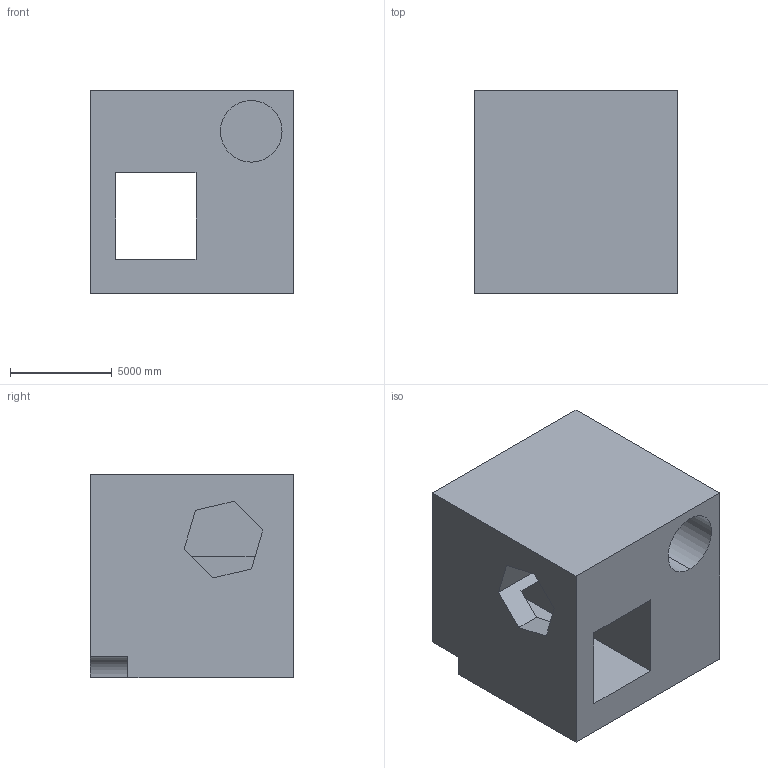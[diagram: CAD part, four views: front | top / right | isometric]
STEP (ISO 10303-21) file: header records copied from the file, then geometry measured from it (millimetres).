
FILE_DESCRIPTION (( 'STEP AP203' ), '1' );
FILE_NAME ('1318.STEP', '2022-08-18T13:44:27', ( 'user' ), ( '' ), 'SwSTEP 2.0', 'SolidWorks 2021', '' );
FILE_SCHEMA (( 'CONFIG_CONTROL_DESIGN' ));
Length unit declared in the file: centimetre
Products named in the file (1): 1318
Bounding box: 10000 x 10000 x 10000 mm (x, y, z)
Volume: 768129711341.3 mm3; surface area: 792806386.2 mm2
Topology: 1 solids, 1 shells, 22 faces, 60 edges, 40 vertices
Faces by surface type: plane 19, cylinder 3
Entity records: 775 total; most frequent: CARTESIAN_POINT 123, ORIENTED_EDGE 120, DIRECTION 112, EDGE_CURVE 60, LINE 54, VECTOR 54, VERTEX_POINT 40, AXIS2_PLACEMENT_3D 29
